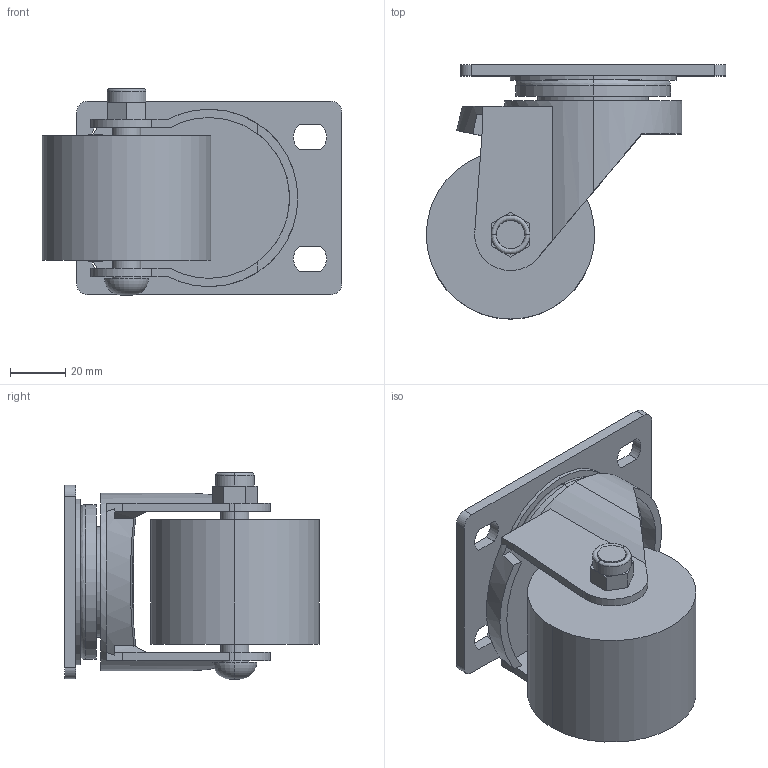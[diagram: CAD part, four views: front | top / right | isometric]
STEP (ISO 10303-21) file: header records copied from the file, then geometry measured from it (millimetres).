
FILE_DESCRIPTION (( 'STEP AP203' ), '1' );
FILE_NAME ('DYP-A6192.STEP', '2018-08-31T06:47:02', ( '' ), ( '' ), 'SwSTEP 2.0', 'SolidWorks 2012', '' );
FILE_SCHEMA (( 'CONFIG_CONTROL_DESIGN' ));
Length unit declared in the file: millimetre
Products named in the file (1): DYP-A6192
Bounding box: 108.4 x 92 x 74.7 mm (x, y, z)
Volume: 214206.3 mm3; surface area: 50654.7 mm2
Topology: 1 solids, 1 shells, 111 faces, 277 edges, 180 vertices
Faces by surface type: plane 55, cylinder 50, bspline 4, torus 2
Entity records: 3496 total; most frequent: CARTESIAN_POINT 722, DIRECTION 577, ORIENTED_EDGE 554, EDGE_CURVE 277, AXIS2_PLACEMENT_3D 213, VERTEX_POINT 180, VECTOR 151, LINE 151
